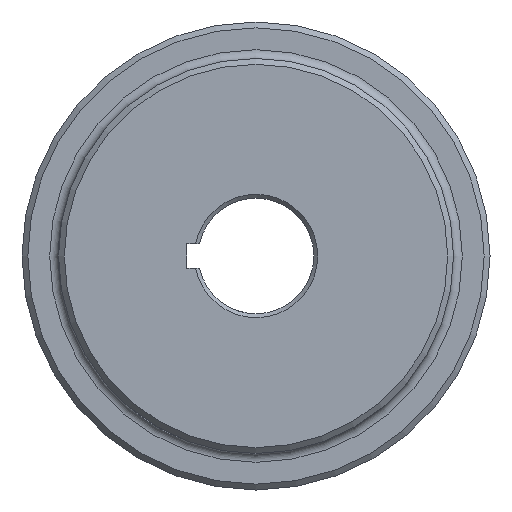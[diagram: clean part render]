
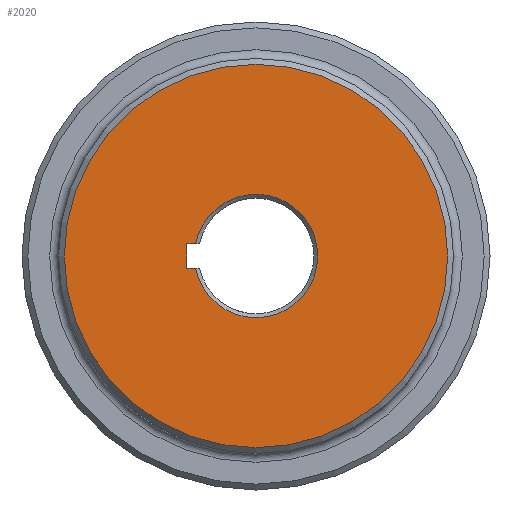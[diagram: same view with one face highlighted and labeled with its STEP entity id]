
A CAD part, left-side view. The second image highlights one B-rep face of the part: STEP entity #2020.
In plain terms, the highlighted planar face has unit normal (-1, 0, 0).
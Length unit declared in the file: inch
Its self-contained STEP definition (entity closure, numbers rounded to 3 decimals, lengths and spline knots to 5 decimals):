
#134 = FACE_OUTER_BOUND ( 'NONE', #2640, .T. ) ;
#190 = DIRECTION ( 'NONE',  ( 0., -1., 0. ) ) ;
#231 = EDGE_CURVE ( 'NONE', #1740, #1076, #2094, .T. ) ;
#298 = ORIENTED_EDGE ( 'NONE', *, *, #1413, .F. ) ;
#383 = DIRECTION ( 'NONE',  ( 0., 0., -1. ) ) ;
#419 = CARTESIAN_POINT ( 'NONE',  ( 0., 0.711, -0.125 ) ) ;
#421 = VERTEX_POINT ( 'NONE', #2014 ) ;
#469 = CARTESIAN_POINT ( 'NONE',  ( 0., 0., -0.125 ) ) ;
#587 = VECTOR ( 'NONE', #190, 39.37008 ) ;
#723 = CARTESIAN_POINT ( 'NONE',  ( 0., 0.711, 0.125 ) ) ;
#803 = CIRCLE ( 'NONE', #2637, 1.97 ) ;
#825 = CARTESIAN_POINT ( 'NONE',  ( 0., 0., 0. ) ) ;
#867 = VECTOR ( 'NONE', #383, 39.37008 ) ;
#1076 = VERTEX_POINT ( 'NONE', #723 ) ;
#1123 = ORIENTED_EDGE ( 'NONE', *, *, #231, .F. ) ;
#1178 = DIRECTION ( 'NONE',  ( 1., 0., 0. ) ) ;
#1236 = FACE_BOUND ( 'NONE', #1654, .T. ) ;
#1320 = DIRECTION ( 'NONE',  ( 0., 1., 0. ) ) ;
#1413 = EDGE_CURVE ( 'NONE', #1483, #421, #2222, .T. ) ;
#1466 = CARTESIAN_POINT ( 'NONE',  ( 0., 0., 0. ) ) ;
#1483 = VERTEX_POINT ( 'NONE', #419 ) ;
#1488 = AXIS2_PLACEMENT_3D ( 'NONE', #1466, #2159, #2512 ) ;
#1510 = PLANE ( 'NONE',  #1488 ) ;
#1548 = CARTESIAN_POINT ( 'NONE',  ( 0., 0., 0. ) ) ;
#1571 = DIRECTION ( 'NONE',  ( 0., 0., -1. ) ) ;
#1625 = EDGE_CURVE ( 'NONE', #1076, #1483, #2022, .T. ) ;
#1654 = EDGE_LOOP ( 'NONE', ( #1123, #2666, #298, #1817 ) ) ;
#1740 = VERTEX_POINT ( 'NONE', #2593 ) ;
#1817 = ORIENTED_EDGE ( 'NONE', *, *, #1625, .F. ) ;
#1881 = VECTOR ( 'NONE', #1320, 39.37008 ) ;
#2014 = CARTESIAN_POINT ( 'NONE',  ( 0., 0.62156, -0.125 ) ) ;
#2020 = ADVANCED_FACE ( 'NONE', ( #134, #1236 ), #1510, .F. ) ;
#2022 = LINE ( 'NONE', #2502, #867 ) ;
#2060 = VERTEX_POINT ( 'NONE', #2464 ) ;
#2094 = LINE ( 'NONE', #2140, #1881 ) ;
#2113 = CIRCLE ( 'NONE', #2406, 0.634 ) ;
#2140 = CARTESIAN_POINT ( 'NONE',  ( 0., 0., 0.125 ) ) ;
#2159 = DIRECTION ( 'NONE',  ( 1., 0., 0. ) ) ;
#2222 = LINE ( 'NONE', #469, #587 ) ;
#2245 = EDGE_CURVE ( 'NONE', #2060, #2060, #803, .T. ) ;
#2406 = AXIS2_PLACEMENT_3D ( 'NONE', #1548, #1178, #2754 ) ;
#2464 = CARTESIAN_POINT ( 'NONE',  ( 0., 0., -1.97 ) ) ;
#2502 = CARTESIAN_POINT ( 'NONE',  ( 0., 0.711, -0.125 ) ) ;
#2512 = DIRECTION ( 'NONE',  ( 0., 0., -1. ) ) ;
#2593 = CARTESIAN_POINT ( 'NONE',  ( 0., 0.62156, 0.125 ) ) ;
#2637 = AXIS2_PLACEMENT_3D ( 'NONE', #825, #2737, #1571 ) ;
#2640 = EDGE_LOOP ( 'NONE', ( #2723 ) ) ;
#2659 = EDGE_CURVE ( 'NONE', #1740, #421, #2113, .T. ) ;
#2666 = ORIENTED_EDGE ( 'NONE', *, *, #2659, .T. ) ;
#2723 = ORIENTED_EDGE ( 'NONE', *, *, #2245, .T. ) ;
#2737 = DIRECTION ( 'NONE',  ( -1., 0., 0. ) ) ;
#2754 = DIRECTION ( 'NONE',  ( 0., 0., -1. ) ) ;
